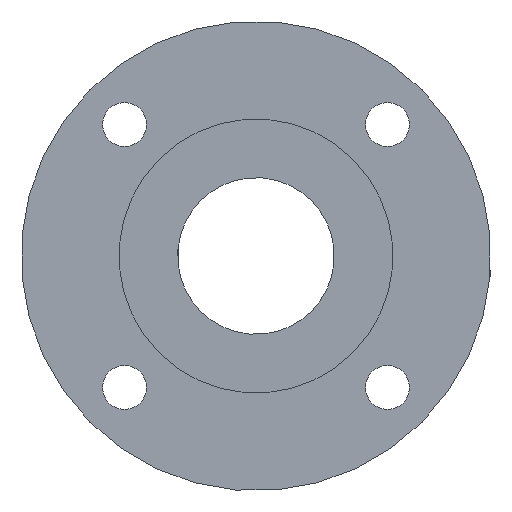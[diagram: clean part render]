
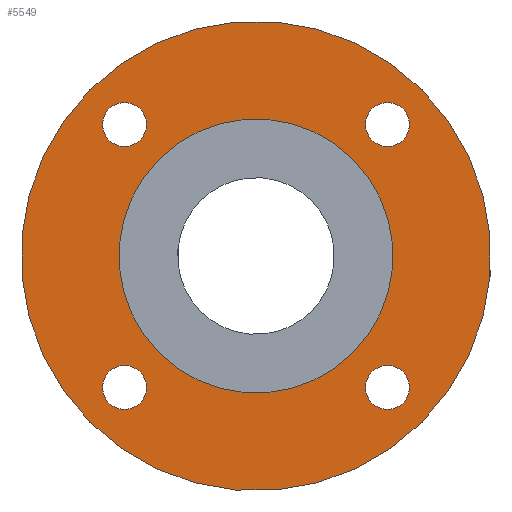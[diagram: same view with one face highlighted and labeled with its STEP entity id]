
A CAD part, left-side view. The second image highlights one B-rep face of the part: STEP entity #5549.
In plain terms, the highlighted planar face has unit normal (-1, 0, 0).
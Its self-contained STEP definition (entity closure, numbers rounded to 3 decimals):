
#111=CIRCLE('',#5903,14.);
#113=CIRCLE('',#5908,2.25);
#114=CIRCLE('',#5909,2.25);
#115=CIRCLE('',#5910,2.25);
#116=CIRCLE('',#5911,2.25);
#117=CIRCLE('',#5912,24.);
#503=ORIENTED_EDGE('',*,*,#2100,.T.);
#504=ORIENTED_EDGE('',*,*,#2101,.T.);
#505=ORIENTED_EDGE('',*,*,#2102,.T.);
#506=ORIENTED_EDGE('',*,*,#2103,.T.);
#507=ORIENTED_EDGE('',*,*,#2104,.F.);
#508=ORIENTED_EDGE('',*,*,#2098,.T.);
#2098=EDGE_CURVE('',#2898,#2898,#111,.T.);
#2100=EDGE_CURVE('',#2900,#2900,#113,.T.);
#2101=EDGE_CURVE('',#2901,#2901,#114,.T.);
#2102=EDGE_CURVE('',#2902,#2902,#115,.T.);
#2103=EDGE_CURVE('',#2903,#2903,#116,.T.);
#2104=EDGE_CURVE('',#2904,#2904,#117,.T.);
#2898=VERTEX_POINT('',#8776);
#2900=VERTEX_POINT('',#8783);
#2901=VERTEX_POINT('',#8785);
#2902=VERTEX_POINT('',#8787);
#2903=VERTEX_POINT('',#8789);
#2904=VERTEX_POINT('',#8791);
#4547=EDGE_LOOP('',(#503));
#4548=EDGE_LOOP('',(#504));
#4549=EDGE_LOOP('',(#505));
#4550=EDGE_LOOP('',(#506));
#4551=EDGE_LOOP('',(#507));
#4552=EDGE_LOOP('',(#508));
#4947=FACE_BOUND('',#4547,.T.);
#4948=FACE_BOUND('',#4548,.T.);
#4949=FACE_BOUND('',#4549,.T.);
#4950=FACE_BOUND('',#4550,.T.);
#4951=FACE_BOUND('',#4551,.T.);
#4952=FACE_BOUND('',#4552,.T.);
#5295=PLANE('',#5907);
#5549=ADVANCED_FACE('',(#4947,#4948,#4949,#4950,#4951,#4952),#5295,.F.);
#5903=AXIS2_PLACEMENT_3D('',#8775,#6416,#6417);
#5907=AXIS2_PLACEMENT_3D('',#8781,#6424,#6425);
#5908=AXIS2_PLACEMENT_3D('',#8782,#6426,#6427);
#5909=AXIS2_PLACEMENT_3D('',#8784,#6428,#6429);
#5910=AXIS2_PLACEMENT_3D('',#8786,#6430,#6431);
#5911=AXIS2_PLACEMENT_3D('',#8788,#6432,#6433);
#5912=AXIS2_PLACEMENT_3D('',#8790,#6434,#6435);
#6416=DIRECTION('',(1.,0.,0.));
#6417=DIRECTION('',(0.,0.707,-0.707));
#6424=DIRECTION('',(1.,0.,0.));
#6425=DIRECTION('',(0.,0.707,-0.707));
#6426=DIRECTION('',(1.,0.,0.));
#6427=DIRECTION('',(0.,0.707,-0.707));
#6428=DIRECTION('',(1.,0.,0.));
#6429=DIRECTION('',(0.,0.707,-0.707));
#6430=DIRECTION('',(1.,0.,0.));
#6431=DIRECTION('',(0.,0.707,-0.707));
#6432=DIRECTION('',(1.,0.,0.));
#6433=DIRECTION('',(0.,0.707,-0.707));
#6434=DIRECTION('',(1.,0.,0.));
#6435=DIRECTION('',(0.,0.707,-0.707));
#8775=CARTESIAN_POINT('',(29.,0.,0.));
#8776=CARTESIAN_POINT('',(29.,9.899,-9.899));
#8781=CARTESIAN_POINT('',(29.,0.,0.));
#8782=CARTESIAN_POINT('',(29.,13.435,-13.435));
#8783=CARTESIAN_POINT('',(29.,15.026,-15.026));
#8784=CARTESIAN_POINT('',(29.,-13.435,-13.435));
#8785=CARTESIAN_POINT('',(29.,-11.844,-15.026));
#8786=CARTESIAN_POINT('',(29.,-13.435,13.435));
#8787=CARTESIAN_POINT('',(29.,-11.844,11.844));
#8788=CARTESIAN_POINT('',(29.,13.435,13.435));
#8789=CARTESIAN_POINT('',(29.,15.026,11.844));
#8790=CARTESIAN_POINT('',(29.,0.,0.));
#8791=CARTESIAN_POINT('',(29.,16.971,-16.971));
